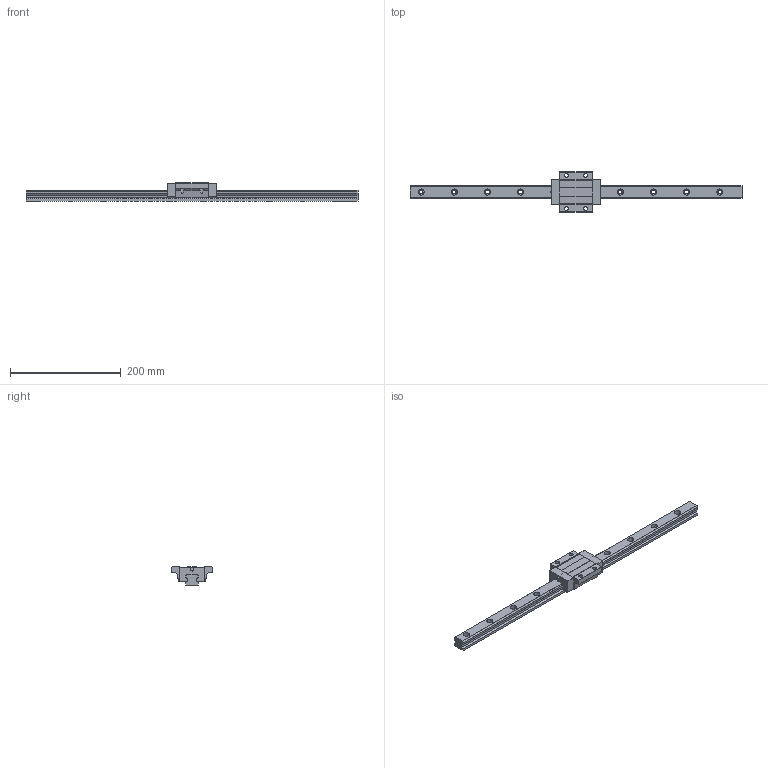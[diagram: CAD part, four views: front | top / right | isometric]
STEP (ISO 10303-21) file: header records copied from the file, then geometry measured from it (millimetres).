
FILE_DESCRIPTION (( 'STEP AP203' ), '1' );
FILE_NAME ('TRS25FN-ZN.STEP', '2023-08-31T06:14:30', ( '' ), ( '' ), 'SwSTEP 2.0', 'SolidWorks 2022', '' );
FILE_SCHEMA (( 'CONFIG_CONTROL_DESIGN' ));
Length unit declared in the file: millimetre
Products named in the file (1): TRS25FN-ZN
Bounding box: 600 x 73 x 33 mm (x, y, z)
Volume: 335700.6 mm3; surface area: 78228.3 mm2
Topology: 1 solids, 1 shells, 211 faces, 582 edges, 378 vertices
Faces by surface type: cylinder 116, plane 91, sphere 4
Entity records: 7133 total; most frequent: CARTESIAN_POINT 1496, DIRECTION 1186, ORIENTED_EDGE 1156, EDGE_CURVE 578, AXIS2_PLACEMENT_3D 422, VERTEX_POINT 378, LINE 342, VECTOR 342
